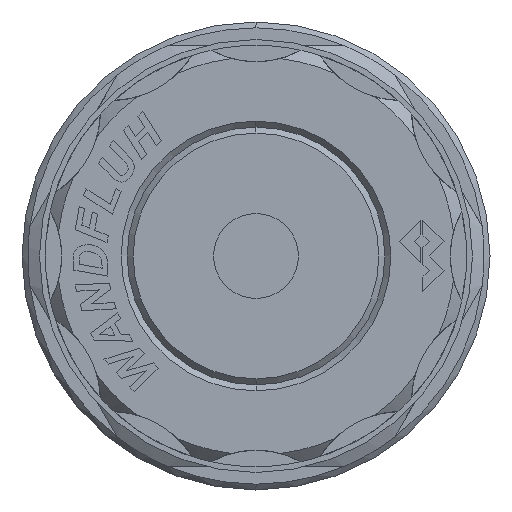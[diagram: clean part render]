
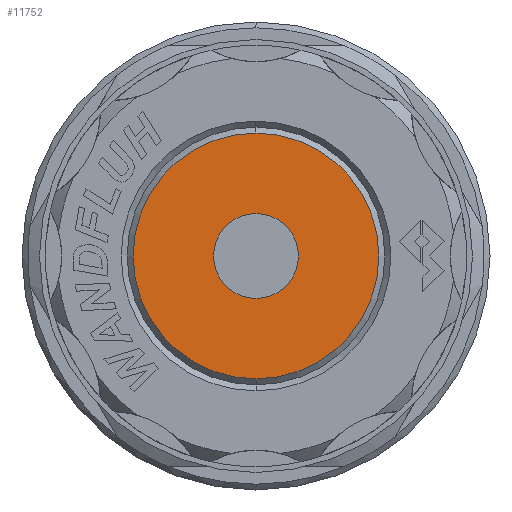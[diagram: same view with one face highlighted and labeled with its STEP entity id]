
A CAD part, left-side view. The second image highlights one B-rep face of the part: STEP entity #11752.
In plain terms, the highlighted planar face has unit normal (-1, 0, 0).
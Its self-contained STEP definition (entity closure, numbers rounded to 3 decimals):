
#1523 = VERTEX_POINT ( 'NONE', #20599 ) ;
#2266 = CIRCLE ( 'NONE', #9408, 10.5 ) ;
#2521 = VERTEX_POINT ( 'NONE', #8934 ) ;
#3142 = EDGE_LOOP ( 'NONE', ( #11527, #11706 ) ) ;
#3250 = EDGE_CURVE ( 'NONE', #17631, #7284, #8790, .T. ) ;
#3815 = ORIENTED_EDGE ( 'NONE', *, *, #14374, .T. ) ;
#7284 = VERTEX_POINT ( 'NONE', #7554 ) ;
#7554 = CARTESIAN_POINT ( 'NONE',  ( -70.2, 0., 3.625 ) ) ;
#8741 = DIRECTION ( 'NONE',  ( 0., 0., -1. ) ) ;
#8790 = CIRCLE ( 'NONE', #12047, 3.625 ) ;
#8934 = CARTESIAN_POINT ( 'NONE',  ( -70.2, 0., -10.5 ) ) ;
#9176 = AXIS2_PLACEMENT_3D ( 'NONE', #9716, #9698, #9690 ) ;
#9408 = AXIS2_PLACEMENT_3D ( 'NONE', #15318, #15312, #15296 ) ;
#9690 = DIRECTION ( 'NONE',  ( 0., 0., -1. ) ) ;
#9698 = DIRECTION ( 'NONE',  ( 1., 0., 0. ) ) ;
#9716 = CARTESIAN_POINT ( 'NONE',  ( -70.2, 0., 0. ) ) ;
#10059 = EDGE_CURVE ( 'NONE', #7284, #17631, #15885, .T. ) ;
#11088 = EDGE_LOOP ( 'NONE', ( #3815, #17079 ) ) ;
#11507 = AXIS2_PLACEMENT_3D ( 'NONE', #13872, #13851, #13803 ) ;
#11527 = ORIENTED_EDGE ( 'NONE', *, *, #3250, .T. ) ;
#11706 = ORIENTED_EDGE ( 'NONE', *, *, #10059, .T. ) ;
#11752 = ADVANCED_FACE ( 'NONE', ( #18362, #12847 ), #14103, .F. ) ;
#12047 = AXIS2_PLACEMENT_3D ( 'NONE', #20992, #20973, #20969 ) ;
#12847 = FACE_OUTER_BOUND ( 'NONE', #11088, .T. ) ;
#13803 = DIRECTION ( 'NONE',  ( 0., 0., -1. ) ) ;
#13851 = DIRECTION ( 'NONE',  ( 1., 0., 0. ) ) ;
#13872 = CARTESIAN_POINT ( 'NONE',  ( -70.2, 0., 0. ) ) ;
#14103 = PLANE ( 'NONE',  #11507 ) ;
#14374 = EDGE_CURVE ( 'NONE', #2521, #1523, #2266, .T. ) ;
#14857 = CIRCLE ( 'NONE', #22056, 10.5 ) ;
#15296 = DIRECTION ( 'NONE',  ( 0., 0., -1. ) ) ;
#15312 = DIRECTION ( 'NONE',  ( -1., 0., 0. ) ) ;
#15318 = CARTESIAN_POINT ( 'NONE',  ( -70.2, 0., 0. ) ) ;
#15662 = CARTESIAN_POINT ( 'NONE',  ( -70.2, 0., -3.625 ) ) ;
#15885 = CIRCLE ( 'NONE', #9176, 3.625 ) ;
#17079 = ORIENTED_EDGE ( 'NONE', *, *, #23604, .T. ) ;
#17631 = VERTEX_POINT ( 'NONE', #15662 ) ;
#18362 = FACE_BOUND ( 'NONE', #3142, .T. ) ;
#20035 = DIRECTION ( 'NONE',  ( -1., 0., 0. ) ) ;
#20040 = CARTESIAN_POINT ( 'NONE',  ( -70.2, 0., 0. ) ) ;
#20599 = CARTESIAN_POINT ( 'NONE',  ( -70.2, 0., 10.5 ) ) ;
#20969 = DIRECTION ( 'NONE',  ( 0., 0., -1. ) ) ;
#20973 = DIRECTION ( 'NONE',  ( 1., 0., 0. ) ) ;
#20992 = CARTESIAN_POINT ( 'NONE',  ( -70.2, 0., 0. ) ) ;
#22056 = AXIS2_PLACEMENT_3D ( 'NONE', #20040, #20035, #8741 ) ;
#23604 = EDGE_CURVE ( 'NONE', #1523, #2521, #14857, .T. ) ;
